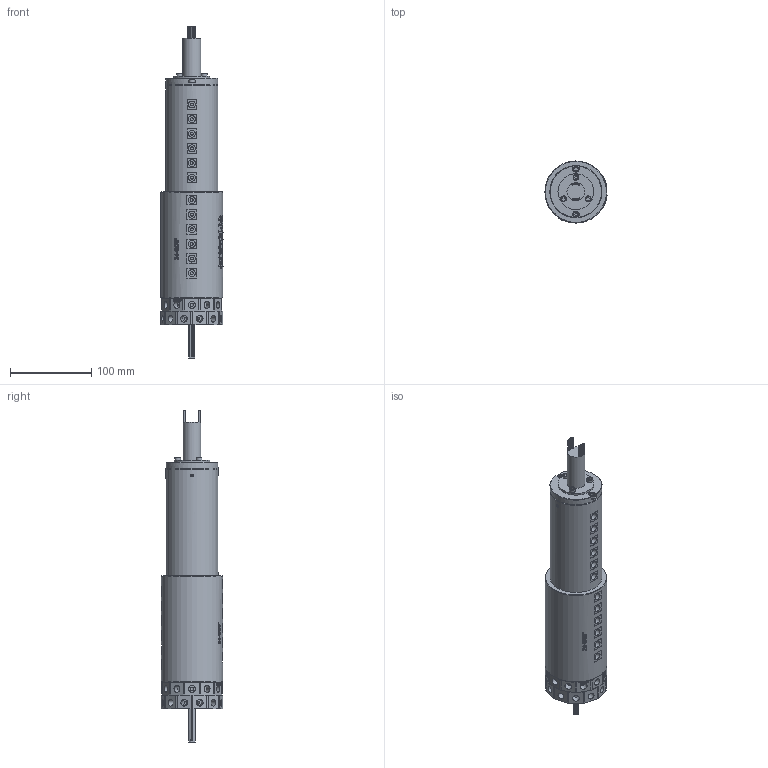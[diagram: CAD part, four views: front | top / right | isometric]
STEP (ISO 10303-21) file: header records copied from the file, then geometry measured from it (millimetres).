
FILE_DESCRIPTION(/* description */ (''),/* implementation_level */ '2;1');
FILE_NAME(/* name */ 'HQ2401-36M.stp',/* time_stamp */ '2025-09-23T11:57:55+08:00',/* author */ (''),/* organization */ (''),/* preprocessor_version */ 'ST-DEVELOPER v16.7',/* originating_system */ 'SIEMENS PLM Software NX 12.0',/* authorisation */ '');
FILE_SCHEMA (('AUTOMOTIVE_DESIGN { 1 0 10303 214 3 1 1 1 }'));
Products named in the file (1): Admi8A8072AE0v9w
Bounding box: 76.29 x 76 x 408.3 mm (x, y, z)
Volume: 1173305 mm3; surface area: 115768.4 mm2
Topology: 1 solids, 5 shells, 1723 faces, 4161 edges, 2772 vertices
Faces by surface type: plane 967, cylinder 382, extrusion 337, bspline 26, cone 6, torus 5
Full cylindrical faces by diameter (mm): 0.8 x78, 3.4 x8, 3.5 x24, 4 x51, 4.1 x24, 4.2 x24, 5.5 x3, 7 x5, 8 x1, 8.5 x48, 22 x2, 44 x1, 52 x1, 64 x2, 76 x1
Entity records: 56546 total; most frequent: CARTESIAN_POINT 20266, ORIENTED_EDGE 7408, DIRECTION 6305, EDGE_CURVE 3704, VERTEX_POINT 2622, EDGE_LOOP 2362, AXIS2_PLACEMENT_3D 2295, B_SPLINE_CURVE_WITH_KNOTS 1717
